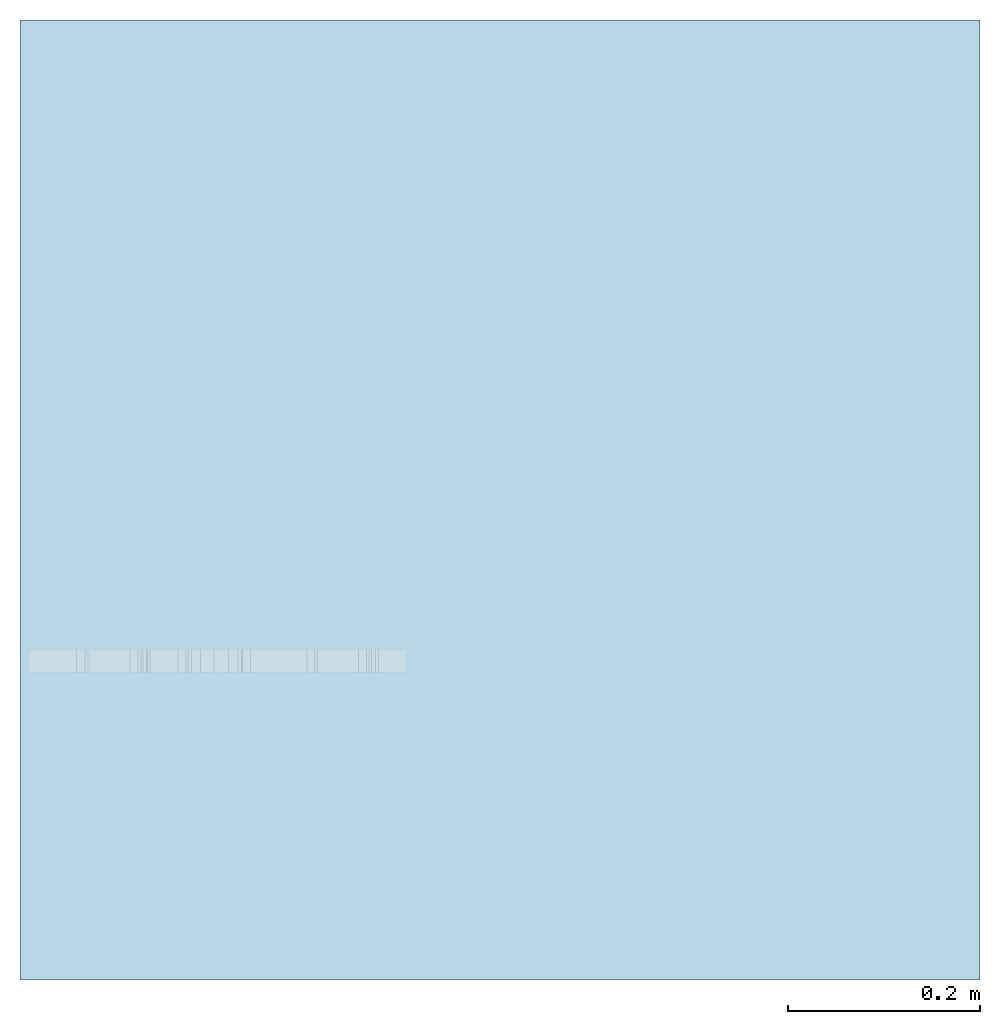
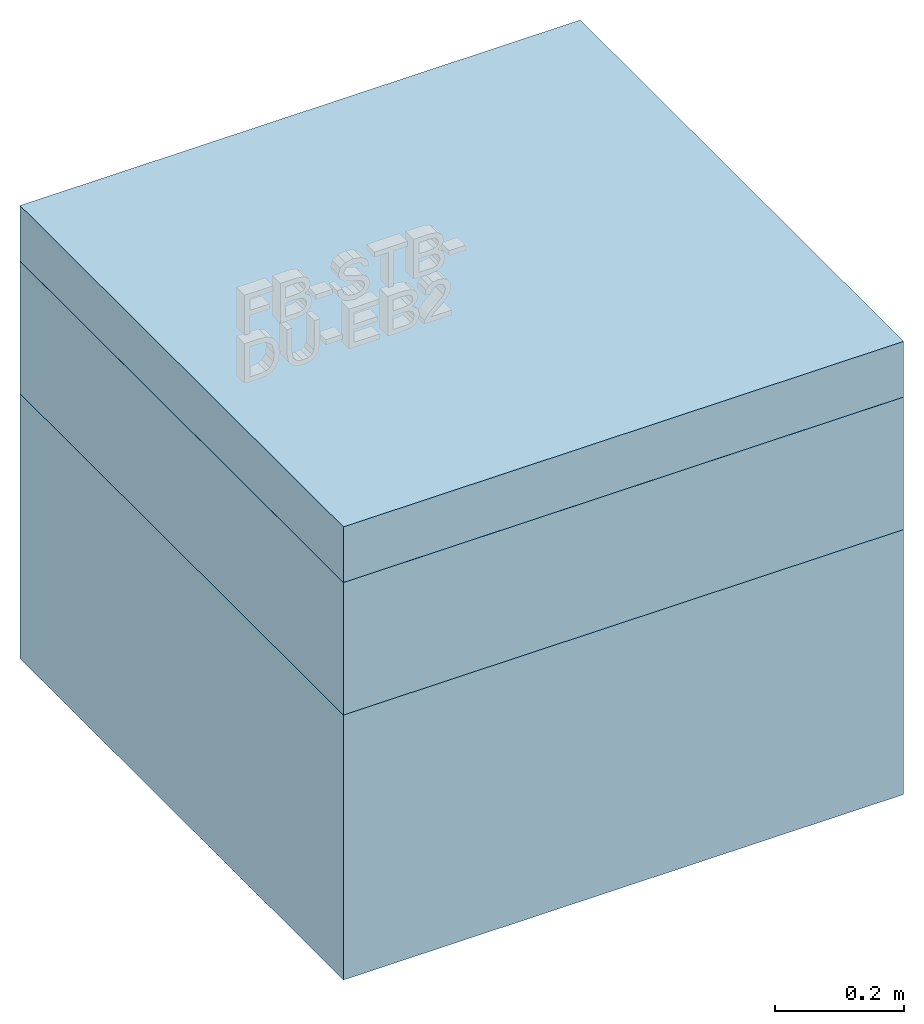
# Not in any storey, part 1 of 2: 3 slabs, 1 element without a shape of its own.
"""IFC4 model written with IfcOpenShell, lengths in metres."""

from ifc_helpers import new_model, entity, si_unit, converted_unit, derived_unit, direction, frame, origin, place, context, subcontext, project, spatial, indexed_curve, outline, extrude, material, constituent, constituent_set, type_object, element, aggregate, save


model = new_model("IFC4")

# Units and contexts
model_context = context("Model", 3, precision=1e-05, world=origin(), true_north=direction((6.123031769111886e-17, 1.0)))
body_context = subcontext(model_context, "Body", "Model", "MODEL_VIEW")
ifc_project = project(units=[si_unit("LENGTHUNIT", "METRE"), si_unit("AREAUNIT", "SQUARE_METRE"), si_unit("VOLUMEUNIT", "CUBIC_METRE"), converted_unit("PLANEANGLEUNIT", "DEGREE", entity("IfcRatioMeasure", 0.017453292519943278), si_unit("PLANEANGLEUNIT", "RADIAN"), dimensions=[0, 0, 0, 0, 0, 0, 0]), si_unit("MASSUNIT", "GRAM", prefix="KILO"), derived_unit("MASSDENSITYUNIT", [(si_unit("MASSUNIT", "GRAM", prefix="KILO"), 1), (si_unit("LENGTHUNIT", "METRE"), -3)]), derived_unit("IONCONCENTRATIONUNIT", [(si_unit("MASSUNIT", "GRAM", prefix="KILO"), 1), (si_unit("LENGTHUNIT", "METRE"), -3)]), derived_unit("MOMENTOFINERTIAUNIT", [(si_unit("LENGTHUNIT", "METRE"), 4)]), si_unit("TIMEUNIT", "SECOND"), si_unit("FREQUENCYUNIT", "HERTZ"), si_unit("THERMODYNAMICTEMPERATUREUNIT", "DEGREE_CELSIUS"), derived_unit("THERMALTRANSMITTANCEUNIT", [(si_unit("MASSUNIT", "GRAM", prefix="KILO"), 1), (si_unit("THERMODYNAMICTEMPERATUREUNIT", "KELVIN"), -1), (si_unit("TIMEUNIT", "SECOND"), -3)]), derived_unit("THERMALCONDUCTANCEUNIT", [(si_unit("MASSUNIT", "GRAM", prefix="KILO"), 1), (si_unit("THERMODYNAMICTEMPERATUREUNIT", "KELVIN"), -1), (si_unit("TIMEUNIT", "SECOND"), -3), (si_unit("LENGTHUNIT", "METRE"), 1)]), derived_unit("VOLUMETRICFLOWRATEUNIT", [(si_unit("LENGTHUNIT", "METRE"), 3), (si_unit("TIMEUNIT", "SECOND"), -1)]), derived_unit("MASSFLOWRATEUNIT", [(si_unit("MASSUNIT", "GRAM", prefix="KILO"), 1), (si_unit("TIMEUNIT", "SECOND"), -1)]), derived_unit("ROTATIONALFREQUENCYUNIT", [(si_unit("TIMEUNIT", "SECOND"), -1)]), si_unit("ELECTRICCURRENTUNIT", "AMPERE"), si_unit("ELECTRICVOLTAGEUNIT", "VOLT"), si_unit("POWERUNIT", "WATT"), si_unit("FORCEUNIT", "NEWTON", prefix="KILO"), si_unit("ILLUMINANCEUNIT", "LUX"), si_unit("LUMINOUSFLUXUNIT", "LUMEN"), si_unit("LUMINOUSINTENSITYUNIT", "CANDELA"), derived_unit("USERDEFINED", [(si_unit("MASSUNIT", "GRAM", prefix="KILO"), -1), (si_unit("LENGTHUNIT", "METRE"), -2), (si_unit("TIMEUNIT", "SECOND"), 3), (si_unit("LUMINOUSFLUXUNIT", "LUMEN"), 1)]), derived_unit("USERDEFINED", [(si_unit("MASSUNIT", "GRAM", prefix="KILO"), 1), (si_unit("TIMEUNIT", "SECOND"), -3), (si_unit("LENGTHUNIT", "METRE"), 3), (si_unit("ELECTRICCURRENTUNIT", "AMPERE"), -2)]), derived_unit("SOUNDPOWERUNIT", [(si_unit("MASSUNIT", "GRAM", prefix="KILO"), 1), (si_unit("TIMEUNIT", "SECOND"), -3), (si_unit("LENGTHUNIT", "METRE"), 2)]), derived_unit("SOUNDPRESSUREUNIT", [(si_unit("MASSUNIT", "GRAM", prefix="KILO"), 1), (si_unit("LENGTHUNIT", "METRE"), -1), (si_unit("TIMEUNIT", "SECOND"), -2)]), derived_unit("LINEARVELOCITYUNIT", [(si_unit("LENGTHUNIT", "METRE"), 1), (si_unit("TIMEUNIT", "SECOND"), -1)]), si_unit("PRESSUREUNIT", "PASCAL"), derived_unit("USERDEFINED", [(si_unit("MASSUNIT", "GRAM", prefix="KILO"), 1), (si_unit("LENGTHUNIT", "METRE"), -2), (si_unit("TIMEUNIT", "SECOND"), -2)]), derived_unit("LINEARFORCEUNIT", [(si_unit("MASSUNIT", "GRAM", prefix="KILO"), 1), (si_unit("TIMEUNIT", "SECOND"), -2)]), derived_unit("PLANARFORCEUNIT", [(si_unit("MASSUNIT", "GRAM", prefix="KILO"), 1), (si_unit("LENGTHUNIT", "METRE"), -1), (si_unit("TIMEUNIT", "SECOND"), -2)]), derived_unit("SPECIFICHEATCAPACITYUNIT", [(si_unit("THERMODYNAMICTEMPERATUREUNIT", "KELVIN"), -1), (si_unit("LENGTHUNIT", "METRE"), 2), (si_unit("TIMEUNIT", "SECOND"), -2)]), derived_unit("HEATINGVALUEUNIT", [(si_unit("LENGTHUNIT", "METRE"), 2), (si_unit("TIMEUNIT", "SECOND"), -2)]), derived_unit("VAPORPERMEABILITYUNIT", [(si_unit("LENGTHUNIT", "METRE"), -1), (si_unit("TIMEUNIT", "SECOND"), 1)]), derived_unit("DYNAMICVISCOSITYUNIT", [(si_unit("MASSUNIT", "GRAM", prefix="KILO"), 1), (si_unit("TIMEUNIT", "SECOND"), -1), (si_unit("LENGTHUNIT", "METRE"), -1)]), derived_unit("THERMALEXPANSIONCOEFFICIENTUNIT", [(si_unit("THERMODYNAMICTEMPERATUREUNIT", "KELVIN"), -1)]), derived_unit("MODULUSOFELASTICITYUNIT", [(si_unit("MASSUNIT", "GRAM", prefix="KILO"), 1), (si_unit("LENGTHUNIT", "METRE"), -1), (si_unit("TIMEUNIT", "SECOND"), -2)]), derived_unit("ISOTHERMALMOISTURECAPACITYUNIT", [(si_unit("LENGTHUNIT", "METRE"), 3), (si_unit("MASSUNIT", "GRAM", prefix="KILO"), -1)]), derived_unit("MOISTUREDIFFUSIVITYUNIT", [(si_unit("TIMEUNIT", "SECOND"), -1), (si_unit("LENGTHUNIT", "METRE"), 2)])], contexts=[model_context])

# Site
site_placement = place(None, origin())
site = spatial("IfcSite", under=ifc_project, at=site_placement, Name="Default", CompositionType="ELEMENT")

# Assembly, slabs
ifc_material_1 = material(Name="fbim_18108010_AT_015_Parkettboden")
ifc_constituent_1 = constituent(ifc_material_1, Name="fbim_18108010_AT_015_Parkettboden")
ifc_material_2 = material(Name="fbim_16053507_AT_Trockenestrich_gips", Category="Gipsputz")
ifc_constituent_2 = constituent(ifc_material_2, Name="fbim_16053507_AT_Trockenestrich_gips", Category="Gipsputz")
ifc_material_3 = material(Name="fbim_14104055_AT_040_HF-Trittschalldaemmplatte")
ifc_constituent_3 = constituent(ifc_material_3, Name="fbim_14104055_AT_040_HF-Trittschalldaemmplatte")
ifc_material_4 = material(Name="fbim_AT_Perlitdaemmschuettung")
ifc_constituent_4 = constituent(ifc_material_4, Name="fbim_AT_Perlitdaemmschuettung")
ifc_constituent_set_1 = constituent_set(constituents=[ifc_constituent_1, ifc_constituent_2, ifc_constituent_3, ifc_constituent_4], Name="Geschossdecke:fbimSg_Slab_dp_INH_vis_at_NTR_natuREbuilt_FBuE_GK3_o_50cm")
assembly_placement = place(site_placement, origin())
assembly = element("IfcElementAssembly", 1, at=assembly_placement, inside=site, material=ifc_constituent_set_1, Name="Geschossdecken Baugruppe:fbimSg_Footing_bc_WOD_vis_at_NTR_natuREbuilt_FB-STB-DU-EB2_GK3_86cm", ObjectType="Geschossdecken Baugruppe:fbimSg_Footing_bc_WOD_vis_at_NTR_natuREbuilt_FB-STB-DU-EB2_GK3_86cm", AssemblyPlace="NOTDEFINED", PredefinedType="USERDEFINED")
slab_type_1 = type_object("IfcSlabType", Name="Geschossdecke:fbimSg_Slab_dp_INH_vis_at_NTR_natuREbuilt_FBuE_GK3_o_50cm", PredefinedType="FLOOR", material=ifc_constituent_set_1)
slab_1_placement = place(assembly_placement, origin())
slab_1 = element("IfcSlab", 2, at=slab_1_placement, type_object=slab_type_1, Name="Geschossdecke:fbimSg_Slab_dp_INH_vis_at_NTR_natuREbuilt_FBuE_GK3_o_50cm", ObjectType="Geschossdecke:fbimSg_Slab_dp_INH_vis_at_NTR_natuREbuilt_FBuE_GK3_o_50cm", PredefinedType="FLOOR", context=body_context, shape_type="SweptSolid", body=[
    extrude(outline(indexed_curve([(-0.5, -0.49999999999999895), (0.5, -0.5000000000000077), (0.5, 0.49999999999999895), (-0.5, 0.49999999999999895), (-0.5, -0.49999999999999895)], self_intersect=False)), frame((1.40944322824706, 43.0146922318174, 1.9240068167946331), z_axis=(0.0, 0.0, 1.0), x_axis=(-1.0, 0.0, 0.0)), (0.0, 0.0, 1.0), 0.015000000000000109),
    extrude(outline(indexed_curve([(-0.5, -0.49999999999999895), (0.5, -0.49999999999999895), (0.5, 0.49999999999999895), (-0.5, 0.49999999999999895), (-0.5, -0.49999999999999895)], self_intersect=False)), frame((1.40944322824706, 43.0146922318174, 1.9040068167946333), z_axis=(0.0, 0.0, 1.0), x_axis=(-1.0, 0.0, 0.0)), (0.0, 0.0, 1.0), 0.019999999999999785),
    extrude(outline(indexed_curve([(-0.5, -0.4999999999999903), (0.5, -0.49999999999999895), (0.5, 0.49999999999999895), (-0.5, 0.49999999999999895), (-0.5, -0.4999999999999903)], self_intersect=False)), frame((1.40944322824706, 43.0146922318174, 1.8840068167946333), z_axis=(0.0, 0.0, 1.0), x_axis=(-1.0, 0.0, 0.0)), (0.0, 0.0, 1.0), 0.020000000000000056),
    extrude(outline(indexed_curve([(-0.5, -0.49999999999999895), (0.5, -0.49999999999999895), (0.5, 0.49999999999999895), (-0.5, 0.49999999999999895), (-0.5, -0.49999999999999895)], self_intersect=False)), frame((1.40944322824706, 43.0146922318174, 1.8340068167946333), z_axis=(0.0, 0.0, 1.0), x_axis=(-1.0, 0.0, 0.0)), (0.0, 0.0, 1.0), 0.05),
])
ifc_material_5 = material(Name="fbim_12050505_AT_025_Stahlbeton_C25_30_GK32")
slab_type_2 = type_object("IfcSlabType", Name="Geschossdecke:fbimSg_Slab_sb_CNR_vis_at_NTR_natuREbuilt_FBuE_GK3_k_25cm", PredefinedType="FLOOR", material=ifc_material_5)
slab_2_placement = place(assembly_placement, origin())
slab_2 = element("IfcSlab", 3, at=slab_2_placement, type_object=slab_type_2, material=ifc_material_5, Name="Geschossdecke:fbimSg_Slab_sb_CNR_vis_at_NTR_natuREbuilt_FBuE_GK3_k_25cm", ObjectType="Geschossdecke:fbimSg_Slab_sb_CNR_vis_at_NTR_natuREbuilt_FBuE_GK3_k_25cm", PredefinedType="FLOOR", context=body_context, shape_type="SweptSolid", body=[
    extrude(outline(indexed_curve([(-0.49999999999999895, -0.4999999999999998), (0.49999999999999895, -0.4999999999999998), (0.49999999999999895, 0.5), (-0.49999999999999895, 0.5), (-0.49999999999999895, -0.4999999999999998)], self_intersect=False)), frame((1.4094432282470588, 43.0146922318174, 1.8340068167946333), z_axis=(0.0, 0.0, -1.0), x_axis=(0.0, 1.0, 0.0)), (0.0, 0.0, 1.0), 0.25),
])
ifc_material_6 = material(Name="fbim_14103005_AT_Schaumglasschotter")
ifc_constituent_5 = constituent(ifc_material_6, Name="fbim_14103005_AT_Schaumglasschotter")
ifc_constituent_set_2 = constituent_set(constituents=[ifc_constituent_5], Name="Geschossdecke:fbimSg_Floor_dp_INS_vis_at_NTR_natuREbuilt_FBuE_GK3_u_10,5cm")
slab_type_3 = type_object("IfcSlabType", Name="Geschossdecke:fbimSg_Floor_dp_INS_vis_at_NTR_natuREbuilt_FBuE_GK3_u_10,5cm", PredefinedType="FLOOR", material=ifc_constituent_set_2)
slab_3_placement = place(assembly_placement, origin())
slab_3 = element("IfcSlab", 4, at=slab_3_placement, type_object=slab_type_3, material=ifc_constituent_set_2, Name="Geschossdecke:fbimSg_Floor_dp_INS_vis_at_NTR_natuREbuilt_FBuE_GK3_u_10,5cm", ObjectType="Geschossdecke:fbimSg_Floor_dp_INS_vis_at_NTR_natuREbuilt_FBuE_GK3_u_10,5cm", PredefinedType="FLOOR", context=body_context, shape_type="SweptSolid", body=[
    extrude(outline(indexed_curve([(-0.49999999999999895, -0.5), (0.49999999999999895, -0.5), (0.49999999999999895, 0.5), (-0.49999999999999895, 0.5), (-0.49999999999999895, -0.5)], self_intersect=False)), frame((1.409443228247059, 43.0146922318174, 1.5840068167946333), z_axis=(0.0, 0.0, -1.0), x_axis=(0.0, 1.0, 0.0)), (0.0, 0.0, 1.0), 0.5),
])
aggregate(assembly, [slab_1, slab_2, slab_3])

save(model, "model.ifc")
